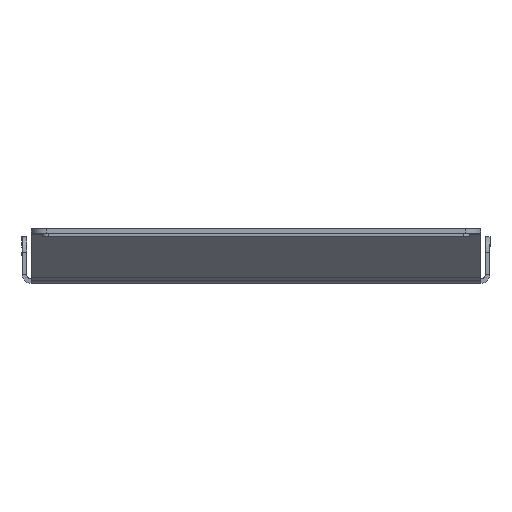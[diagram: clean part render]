
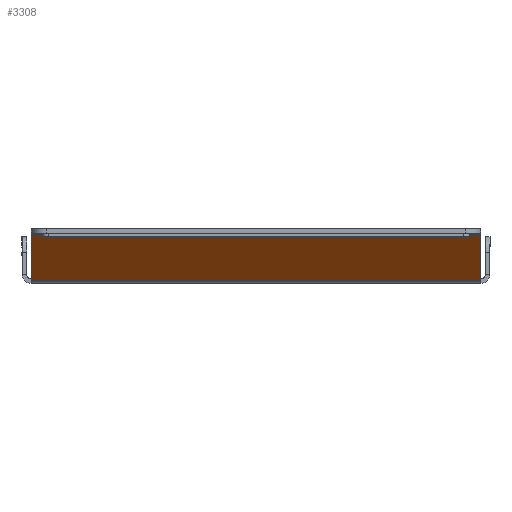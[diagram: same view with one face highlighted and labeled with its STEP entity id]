
A CAD part, left-side view. The second image highlights one B-rep face of the part: STEP entity #3308.
In plain terms, the highlighted planar face has unit normal (-0.707, 0, -0.707).
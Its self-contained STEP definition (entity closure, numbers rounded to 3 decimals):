
#197 = EDGE_LOOP ( 'NONE', ( #992, #3110, #1443, #423 ) ) ;
#423 = ORIENTED_EDGE ( 'NONE', *, *, #1514, .T. ) ;
#613 = LINE ( 'NONE', #2181, #2543 ) ;
#781 = CARTESIAN_POINT ( 'NONE',  ( -127.689, 0., -129.811 ) ) ;
#823 = EDGE_CURVE ( 'NONE', #3186, #1355, #1491, .T. ) ;
#832 = VECTOR ( 'NONE', #1442, 1000. ) ;
#834 = CARTESIAN_POINT ( 'NONE',  ( -256.879, 72.5, -0.621 ) ) ;
#992 = ORIENTED_EDGE ( 'NONE', *, *, #1817, .F. ) ;
#1123 = DIRECTION ( 'NONE',  ( 0., -1., 0. ) ) ;
#1160 = LINE ( 'NONE', #834, #832 ) ;
#1213 = VERTEX_POINT ( 'NONE', #3236 ) ;
#1292 = DIRECTION ( 'NONE',  ( -0.707, 0., 0.707 ) ) ;
#1334 = CARTESIAN_POINT ( 'NONE',  ( -256.879, -72.5, -0.621 ) ) ;
#1355 = VERTEX_POINT ( 'NONE', #2059 ) ;
#1442 = DIRECTION ( 'NONE',  ( 0., 1., 0. ) ) ;
#1443 = ORIENTED_EDGE ( 'NONE', *, *, #2462, .F. ) ;
#1491 = LINE ( 'NONE', #2065, #1939 ) ;
#1514 = EDGE_CURVE ( 'NONE', #3229, #1213, #613, .T. ) ;
#1714 = PLANE ( 'NONE',  #1730 ) ;
#1730 = AXIS2_PLACEMENT_3D ( 'NONE', #781, #2022, #3259 ) ;
#1765 = DIRECTION ( 'NONE',  ( 0.707, 0., -0.707 ) ) ;
#1817 = EDGE_CURVE ( 'NONE', #3186, #1213, #3939, .T. ) ;
#1939 = VECTOR ( 'NONE', #1765, 1000. ) ;
#2022 = DIRECTION ( 'NONE',  ( 0.707, 0., 0.707 ) ) ;
#2059 = CARTESIAN_POINT ( 'NONE',  ( -256.879, 72.5, -0.621 ) ) ;
#2065 = CARTESIAN_POINT ( 'NONE',  ( -127.689, 72.5, -129.811 ) ) ;
#2181 = CARTESIAN_POINT ( 'NONE',  ( -127.689, -72.5, -129.811 ) ) ;
#2462 = EDGE_CURVE ( 'NONE', #3229, #1355, #1160, .T. ) ;
#2543 = VECTOR ( 'NONE', #1292, 1000. ) ;
#2955 = FACE_OUTER_BOUND ( 'NONE', #197, .T. ) ;
#3110 = ORIENTED_EDGE ( 'NONE', *, *, #823, .T. ) ;
#3113 = VECTOR ( 'NONE', #1123, 1000. ) ;
#3160 = CARTESIAN_POINT ( 'NONE',  ( -271.738, 72.5, 14.238 ) ) ;
#3186 = VERTEX_POINT ( 'NONE', #3160 ) ;
#3229 = VERTEX_POINT ( 'NONE', #1334 ) ;
#3236 = CARTESIAN_POINT ( 'NONE',  ( -271.738, -72.5, 14.238 ) ) ;
#3259 = DIRECTION ( 'NONE',  ( 0.707, 0., -0.707 ) ) ;
#3308 = ADVANCED_FACE ( 'NONE', ( #2955 ), #1714, .F. ) ;
#3900 = CARTESIAN_POINT ( 'NONE',  ( -271.738, 72.5, 14.238 ) ) ;
#3939 = LINE ( 'NONE', #3900, #3113 ) ;
